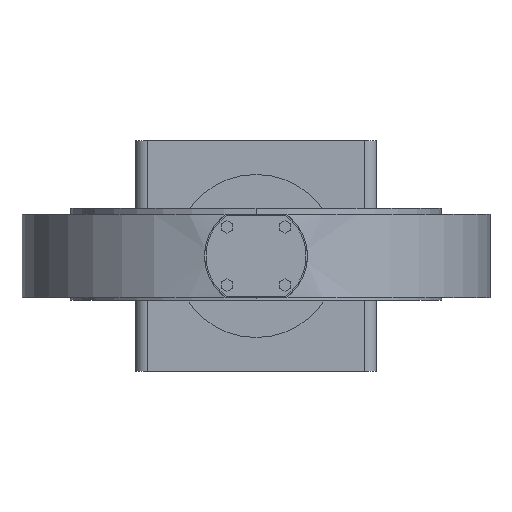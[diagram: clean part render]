
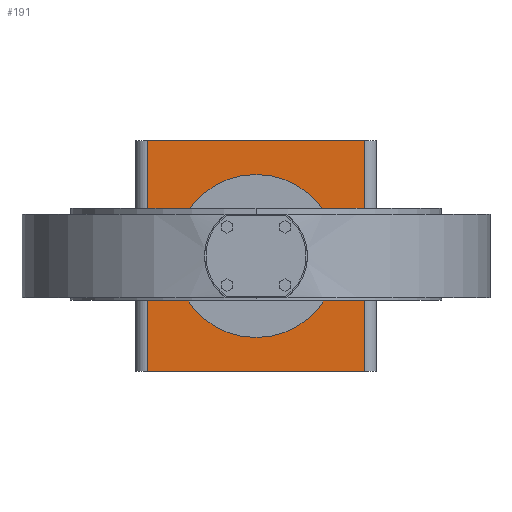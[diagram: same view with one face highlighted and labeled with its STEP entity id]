
A CAD part, front view. The second image highlights one B-rep face of the part: STEP entity #191.
In plain terms, the highlighted planar face has unit normal (0, -1, 0).
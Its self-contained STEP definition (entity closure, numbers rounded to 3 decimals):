
#191 = ADVANCED_FACE( '', ( #567, #568 ), #569, .T. );
#567 = FACE_OUTER_BOUND( '', #1149, .T. );
#568 = FACE_BOUND( '', #1150, .T. );
#569 = PLANE( '', #1151 );
#1149 = EDGE_LOOP( '', ( #2362, #2363, #2364, #2365 ) );
#1150 = EDGE_LOOP( '', ( #2366, #2367 ) );
#1151 = AXIS2_PLACEMENT_3D( '', #2368, #2369, #2370 );
#2362 = ORIENTED_EDGE( '', *, *, #3901, .T. );
#2363 = ORIENTED_EDGE( '', *, *, #3902, .F. );
#2364 = ORIENTED_EDGE( '', *, *, #3903, .F. );
#2365 = ORIENTED_EDGE( '', *, *, #3904, .T. );
#2366 = ORIENTED_EDGE( '', *, *, #3708, .T. );
#2367 = ORIENTED_EDGE( '', *, *, #3905, .T. );
#2368 = CARTESIAN_POINT( '', ( -180., 566., 190.5 ) );
#2369 = DIRECTION( '', ( 0., -1., 0. ) );
#2370 = DIRECTION( '', ( -1., 0., 0. ) );
#3708 = EDGE_CURVE( '', #4535, #4539, #4541, .T. );
#3901 = EDGE_CURVE( '', #4859, #4860, #4861, .T. );
#3902 = EDGE_CURVE( '', #4862, #4860, #4863, .T. );
#3903 = EDGE_CURVE( '', #4864, #4862, #4865, .T. );
#3904 = EDGE_CURVE( '', #4864, #4859, #4866, .T. );
#3905 = EDGE_CURVE( '', #4539, #4535, #4867, .T. );
#4535 = VERTEX_POINT( '', #6282 );
#4539 = VERTEX_POINT( '', #6287 );
#4541 = CIRCLE( '', #6290, 135. );
#4859 = VERTEX_POINT( '', #6954 );
#4860 = VERTEX_POINT( '', #6955 );
#4861 = LINE( '', #6956, #6957 );
#4862 = VERTEX_POINT( '', #6958 );
#4863 = LINE( '', #6959, #6960 );
#4864 = VERTEX_POINT( '', #6961 );
#4865 = LINE( '', #6962, #6963 );
#4866 = LINE( '', #6964, #6965 );
#4867 = CIRCLE( '', #6966, 135. );
#6282 = CARTESIAN_POINT( '', ( 135., 566., 0. ) );
#6287 = CARTESIAN_POINT( '', ( -135., 566., 0. ) );
#6290 = AXIS2_PLACEMENT_3D( '', #8012, #8013, #8014 );
#6954 = CARTESIAN_POINT( '', ( -180., 566., -190.5 ) );
#6955 = CARTESIAN_POINT( '', ( 180., 566., -190.5 ) );
#6956 = CARTESIAN_POINT( '', ( -180., 566., -190.5 ) );
#6957 = VECTOR( '', #8369, 1. );
#6958 = CARTESIAN_POINT( '', ( 180., 566., 190.5 ) );
#6959 = CARTESIAN_POINT( '', ( 180., 566., 190.5 ) );
#6960 = VECTOR( '', #8370, 1. );
#6961 = CARTESIAN_POINT( '', ( -180., 566., 190.5 ) );
#6962 = CARTESIAN_POINT( '', ( -180., 566., 190.5 ) );
#6963 = VECTOR( '', #8371, 1. );
#6964 = CARTESIAN_POINT( '', ( -180., 566., 190.5 ) );
#6965 = VECTOR( '', #8372, 1. );
#6966 = AXIS2_PLACEMENT_3D( '', #8373, #8374, #8375 );
#8012 = CARTESIAN_POINT( '', ( 0., 566., 0. ) );
#8013 = DIRECTION( '', ( 0., 1., 0. ) );
#8014 = DIRECTION( '', ( 1., 0., 0. ) );
#8369 = DIRECTION( '', ( 1., 0., 0. ) );
#8370 = DIRECTION( '', ( 0., 0., -1. ) );
#8371 = DIRECTION( '', ( 1., 0., 0. ) );
#8372 = DIRECTION( '', ( 0., 0., -1. ) );
#8373 = CARTESIAN_POINT( '', ( 0., 566., 0. ) );
#8374 = DIRECTION( '', ( 0., 1., 0. ) );
#8375 = DIRECTION( '', ( 1., 0., 0. ) );
